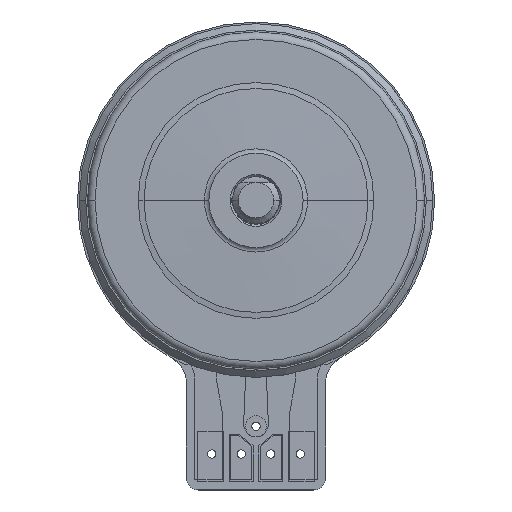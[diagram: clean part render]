
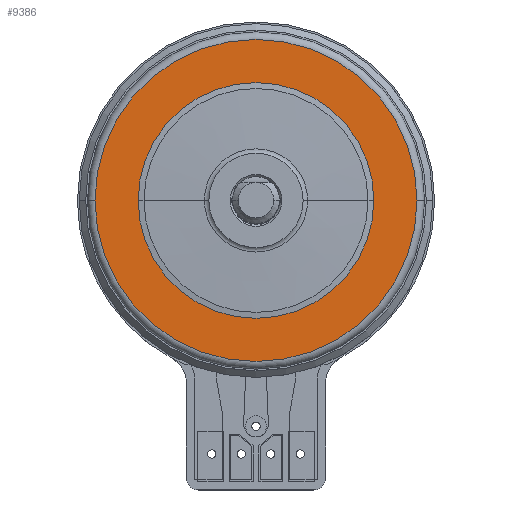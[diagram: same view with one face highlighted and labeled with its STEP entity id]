
A CAD part, top view. The second image highlights one B-rep face of the part: STEP entity #9386.
In plain terms, the highlighted planar face has unit normal (0, 0, 1).
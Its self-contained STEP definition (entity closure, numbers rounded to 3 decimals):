
#12 = CIRCLE ( 'NONE', #7839, 13.66 ) ;
#150 = CIRCLE ( 'NONE', #7825, 10. ) ;
#199 = CIRCLE ( 'NONE', #7837, 13.66 ) ;
#843 = PLANE ( 'NONE',  #8163 ) ;
#850 = CARTESIAN_POINT ( 'NONE',  ( -1.546, 20.085, 6.652 ) ) ;
#851 = DIRECTION ( 'NONE',  ( 0., 0., -1. ) ) ;
#852 = DIRECTION ( 'NONE',  ( -1., 0., 0. ) ) ;
#1008 = CARTESIAN_POINT ( 'NONE',  ( -15.206, 5.785, 6.652 ) ) ;
#2487 = ORIENTED_EDGE ( 'NONE', *, *, #4785, .T. ) ;
#2509 = ORIENTED_EDGE ( 'NONE', *, *, #4781, .T. ) ;
#2516 = ORIENTED_EDGE ( 'NONE', *, *, #4760, .F. ) ;
#3507 = CARTESIAN_POINT ( 'NONE',  ( -11.546, 5.785, 6.652 ) ) ;
#3524 = CARTESIAN_POINT ( 'NONE',  ( 12.114, 5.785, 6.652 ) ) ;
#4004 = CARTESIAN_POINT ( 'NONE',  ( -1.546, 5.785, 6.652 ) ) ;
#4005 = DIRECTION ( 'NONE',  ( 0., 0., 1. ) ) ;
#4006 = DIRECTION ( 'NONE',  ( 1., 0., 0. ) ) ;
#4165 = CARTESIAN_POINT ( 'NONE',  ( 8.454, 5.785, 6.652 ) ) ;
#4248 = DIRECTION ( 'NONE',  ( 1., 0., 0. ) ) ;
#4271 = DIRECTION ( 'NONE',  ( 0., 0., 1. ) ) ;
#4272 = CARTESIAN_POINT ( 'NONE',  ( -1.546, 5.785, 6.652 ) ) ;
#4327 = DIRECTION ( 'NONE',  ( -1., 0., 0. ) ) ;
#4329 = DIRECTION ( 'NONE',  ( 0., 0., 1. ) ) ;
#4331 = CARTESIAN_POINT ( 'NONE',  ( -1.546, 5.785, 6.652 ) ) ;
#4351 = DIRECTION ( 'NONE',  ( 0., 0., 1. ) ) ;
#4358 = DIRECTION ( 'NONE',  ( -1., 0., 0. ) ) ;
#4360 = CARTESIAN_POINT ( 'NONE',  ( -1.546, 5.785, 6.652 ) ) ;
#4760 = EDGE_CURVE ( 'NONE', #9042, #6663, #150, .T. ) ;
#4781 = EDGE_CURVE ( 'NONE', #9049, #9144, #199, .T. ) ;
#4785 = EDGE_CURVE ( 'NONE', #9144, #9049, #12, .T. ) ;
#5129 = EDGE_CURVE ( 'NONE', #6663, #9042, #9647, .T. ) ;
#5266 = FACE_BOUND ( 'NONE', #8316, .T. ) ;
#5268 = FACE_OUTER_BOUND ( 'NONE', #8271, .T. ) ;
#6663 = VERTEX_POINT ( 'NONE', #4165 ) ;
#6906 = ORIENTED_EDGE ( 'NONE', *, *, #5129, .F. ) ;
#7825 = AXIS2_PLACEMENT_3D ( 'NONE', #4272, #4271, #4248 ) ;
#7837 = AXIS2_PLACEMENT_3D ( 'NONE', #4331, #4329, #4327 ) ;
#7839 = AXIS2_PLACEMENT_3D ( 'NONE', #4360, #4351, #4358 ) ;
#7932 = AXIS2_PLACEMENT_3D ( 'NONE', #4004, #4005, #4006 ) ;
#8163 = AXIS2_PLACEMENT_3D ( 'NONE', #850, #851, #852 ) ;
#8271 = EDGE_LOOP ( 'NONE', ( #2487, #2509 ) ) ;
#8316 = EDGE_LOOP ( 'NONE', ( #2516, #6906 ) ) ;
#9042 = VERTEX_POINT ( 'NONE', #3507 ) ;
#9049 = VERTEX_POINT ( 'NONE', #3524 ) ;
#9144 = VERTEX_POINT ( 'NONE', #1008 ) ;
#9386 = ADVANCED_FACE ( 'NONE', ( #5268, #5266 ), #843, .F. ) ;
#9647 = CIRCLE ( 'NONE', #7932, 10. ) ;
